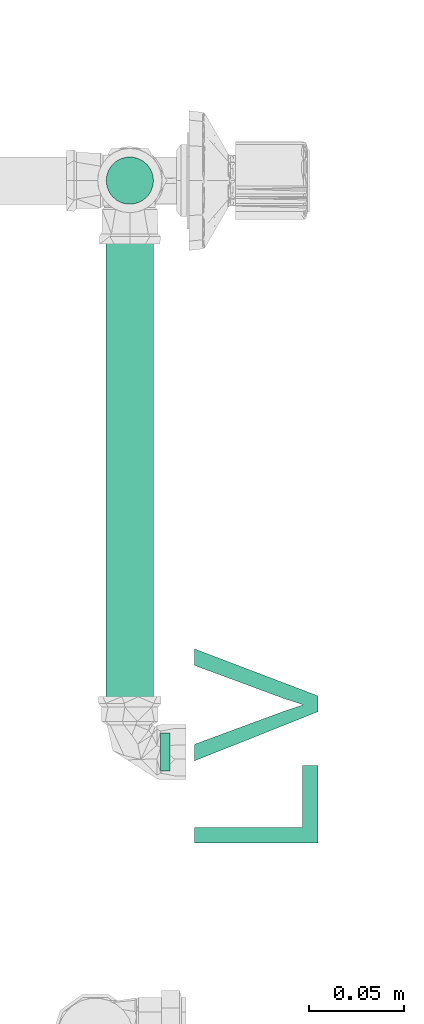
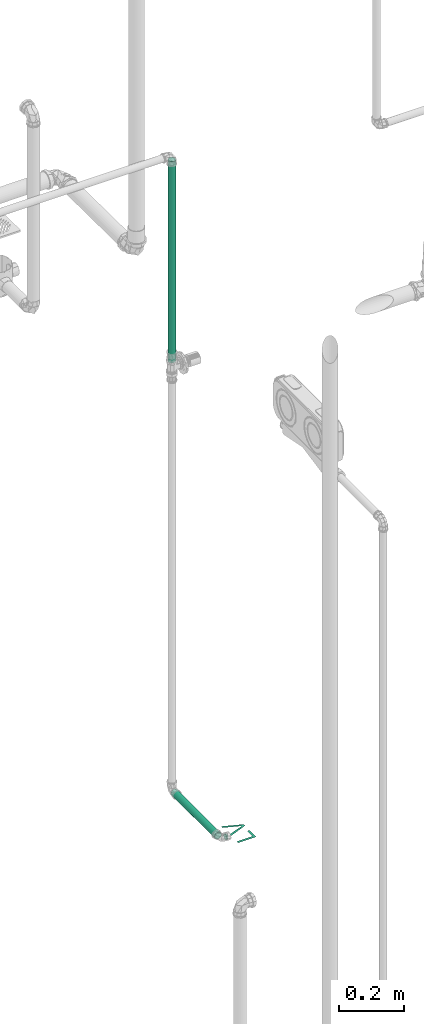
# One storey, part 189 of 589: 2 flow segments, 1 flow terminal.
"""IFC2X3 building model written with IfcOpenShell, lengths in millimetres."""

from ifc_helpers import new_model, entity, si_unit, converted_unit, derived_unit, direction, frame, frame_2d, origin, origin_2d_with_axis, place, context, subcontext, project, spatial, circle, extrude, face_set, surface_model, source, transform, mapped, material, type_object, type_shapes, element, save


model = new_model("IFC2X3")

# Units and contexts
model_context = context("Model", 3, precision=0.01, world=origin(), true_north=direction((6.123031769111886e-17, 1.0)))
body_context = subcontext(model_context, "Body", "Model", "MODEL_VIEW")
ifc_project = project(units=[si_unit("LENGTHUNIT", "METRE", prefix="MILLI"), si_unit("AREAUNIT", "SQUARE_METRE"), si_unit("VOLUMEUNIT", "CUBIC_METRE"), converted_unit("PLANEANGLEUNIT", "DEGREE", entity("IfcRatioMeasure", 0.017453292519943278), si_unit("PLANEANGLEUNIT", "RADIAN"), dimensions=[0, 0, 0, 0, 0, 0, 0]), si_unit("MASSUNIT", "GRAM", prefix="KILO"), derived_unit("MASSDENSITYUNIT", [(si_unit("MASSUNIT", "GRAM", prefix="KILO"), 1), (si_unit("LENGTHUNIT", "METRE"), -3)]), derived_unit("IONCONCENTRATIONUNIT", [(si_unit("MASSUNIT", "GRAM", prefix="KILO"), 1), (si_unit("LENGTHUNIT", "METRE"), -3)]), derived_unit("MOMENTOFINERTIAUNIT", [(si_unit("LENGTHUNIT", "METRE"), 4)]), si_unit("TIMEUNIT", "SECOND"), si_unit("FREQUENCYUNIT", "HERTZ"), si_unit("THERMODYNAMICTEMPERATUREUNIT", "DEGREE_CELSIUS"), derived_unit("THERMALTRANSMITTANCEUNIT", [(si_unit("MASSUNIT", "GRAM", prefix="KILO"), 1), (si_unit("THERMODYNAMICTEMPERATUREUNIT", "KELVIN"), -1), (si_unit("TIMEUNIT", "SECOND"), -3)]), derived_unit("THERMALCONDUCTANCEUNIT", [(si_unit("MASSUNIT", "GRAM", prefix="KILO"), 1), (si_unit("THERMODYNAMICTEMPERATUREUNIT", "KELVIN"), -1), (si_unit("TIMEUNIT", "SECOND"), -3), (si_unit("LENGTHUNIT", "METRE"), 1)]), derived_unit("VOLUMETRICFLOWRATEUNIT", [(si_unit("LENGTHUNIT", "METRE"), 3), (si_unit("TIMEUNIT", "SECOND"), -1)]), derived_unit("MASSFLOWRATEUNIT", [(si_unit("MASSUNIT", "GRAM", prefix="KILO"), 1), (si_unit("TIMEUNIT", "SECOND"), -1)]), derived_unit("ROTATIONALFREQUENCYUNIT", [(si_unit("TIMEUNIT", "SECOND"), -1)]), si_unit("ELECTRICCURRENTUNIT", "AMPERE"), si_unit("ELECTRICVOLTAGEUNIT", "VOLT"), si_unit("POWERUNIT", "WATT"), si_unit("FORCEUNIT", "NEWTON", prefix="KILO"), si_unit("ILLUMINANCEUNIT", "LUX"), si_unit("LUMINOUSFLUXUNIT", "LUMEN"), si_unit("LUMINOUSINTENSITYUNIT", "CANDELA"), derived_unit("USERDEFINED", [(si_unit("MASSUNIT", "GRAM", prefix="KILO"), -1), (si_unit("LENGTHUNIT", "METRE"), -2), (si_unit("TIMEUNIT", "SECOND"), 3), (si_unit("LUMINOUSFLUXUNIT", "LUMEN"), 1)]), derived_unit("USERDEFINED", [(si_unit("MASSUNIT", "GRAM", prefix="KILO"), 1), (si_unit("TIMEUNIT", "SECOND"), -3), (si_unit("LENGTHUNIT", "METRE"), 3), (si_unit("ELECTRICCURRENTUNIT", "AMPERE"), -2)]), derived_unit("SOUNDPOWERUNIT", [(si_unit("MASSUNIT", "GRAM", prefix="KILO"), 1), (si_unit("TIMEUNIT", "SECOND"), -3), (si_unit("LENGTHUNIT", "METRE"), 2)]), derived_unit("SOUNDPRESSUREUNIT", [(si_unit("MASSUNIT", "GRAM", prefix="KILO"), 1), (si_unit("LENGTHUNIT", "METRE"), -1), (si_unit("TIMEUNIT", "SECOND"), -2)]), derived_unit("LINEARVELOCITYUNIT", [(si_unit("LENGTHUNIT", "METRE"), 1), (si_unit("TIMEUNIT", "SECOND"), -1)]), si_unit("PRESSUREUNIT", "PASCAL"), derived_unit("USERDEFINED", [(si_unit("MASSUNIT", "GRAM", prefix="KILO"), 1), (si_unit("LENGTHUNIT", "METRE"), -2), (si_unit("TIMEUNIT", "SECOND"), -2)]), derived_unit("LINEARFORCEUNIT", [(si_unit("MASSUNIT", "GRAM", prefix="KILO"), 1), (si_unit("TIMEUNIT", "SECOND"), -2)]), derived_unit("PLANARFORCEUNIT", [(si_unit("MASSUNIT", "GRAM", prefix="KILO"), 1), (si_unit("LENGTHUNIT", "METRE"), -1), (si_unit("TIMEUNIT", "SECOND"), -2)]), derived_unit("SPECIFICHEATCAPACITYUNIT", [(si_unit("THERMODYNAMICTEMPERATUREUNIT", "KELVIN"), -1), (si_unit("LENGTHUNIT", "METRE"), 2), (si_unit("TIMEUNIT", "SECOND"), -2)]), derived_unit("HEATINGVALUEUNIT", [(si_unit("LENGTHUNIT", "METRE"), 2), (si_unit("TIMEUNIT", "SECOND"), -2)]), derived_unit("VAPORPERMEABILITYUNIT", [(si_unit("LENGTHUNIT", "METRE"), -1), (si_unit("TIMEUNIT", "SECOND"), 1)]), derived_unit("DYNAMICVISCOSITYUNIT", [(si_unit("MASSUNIT", "GRAM", prefix="KILO"), 1), (si_unit("TIMEUNIT", "SECOND"), -1), (si_unit("LENGTHUNIT", "METRE"), -1)]), derived_unit("THERMALEXPANSIONCOEFFICIENTUNIT", [(si_unit("THERMODYNAMICTEMPERATUREUNIT", "KELVIN"), -1)]), derived_unit("MODULUSOFELASTICITYUNIT", [(si_unit("MASSUNIT", "GRAM", prefix="KILO"), 1), (si_unit("LENGTHUNIT", "METRE"), -1), (si_unit("TIMEUNIT", "SECOND"), -2)]), derived_unit("ISOTHERMALMOISTURECAPACITYUNIT", [(si_unit("LENGTHUNIT", "METRE"), 3), (si_unit("MASSUNIT", "GRAM", prefix="KILO"), -1)]), derived_unit("MOISTUREDIFFUSIVITYUNIT", [(si_unit("TIMEUNIT", "SECOND"), -1), (si_unit("LENGTHUNIT", "METRE"), 2)])], contexts=[model_context])

# Site, building, storey
site_placement = place(None, origin())
site = spatial("IfcSite", under=ifc_project, at=site_placement, Name="Default", CompositionType="ELEMENT")
building_placement = place(site_placement, origin())
building = spatial("IfcBuilding", under=site, at=building_placement, CompositionType="ELEMENT")
storey_placement = place(building_placement, frame((0.0, 0.0, 100.0)))
storey = spatial("IfcBuildingStorey", under=building, at=storey_placement, Name="TÉRREO", CompositionType="ELEMENT", Elevation=100.0)

# Flow segments
pipe_segment_type = type_object("IfcPipeSegmentType", Name="Tipos de tubos:PVC Marrom Soldável", PredefinedType="NOTDEFINED")
flow_segment_1_placement = place(storey_placement, origin())
element("IfcFlowSegment", 1, at=flow_segment_1_placement, inside=storey, type_object=pipe_segment_type, Name="Tipos de tubos:PVC Marrom Soldável", ObjectType="Tipos de tubos:PVC Marrom Soldável", context=body_context, shape_type="SweptSolid", body=[
    extrude(circle(Radius=12.5, at=frame_2d((0.0, -1.353583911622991e-13), x_axis=(1.0, 0.0))), frame((11878.221256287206, -5881.231283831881, 600.0), z_axis=(0.0, 1.0, 0.0), x_axis=(1.0, 0.0, 0.0)), (0.0, 0.0, 1.0), 270.4353148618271),
])
flow_segment_2_placement = place(storey_placement, origin())
element("IfcFlowSegment", 2, at=flow_segment_2_placement, inside=storey, type_object=pipe_segment_type, Name="Tipos de tubos:PVC Marrom Soldável", ObjectType="Tipos de tubos:PVC Marrom Soldável", context=body_context, shape_type="SweptSolid", body=[
    extrude(circle(Radius=12.5, at=origin_2d_with_axis()), frame((11878.221256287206, -5595.395968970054, 2220.0), z_axis=(0.0, 0.0, 1.0), x_axis=(-1.0, 0.0, 0.0)), (0.0, 0.0, 1.0), 759.6000000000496),
])

# Flow terminal
ifc_material = material(Name="<Unnamed>")
distribution_element_type = type_object("IfcDistributionElementType", Name="Hidráulica_Ponto de Utilização_Uso Provável_Rodrigo MEP:Lavatório LV (Peso 0,3) 60cm do Piso", material=ifc_material)
shared_shape = source(origin(), body_context, "Body", "SurfaceModel", [
    surface_model("IfcFaceBasedSurfaceModel", [(0.0, 0.0, 11.595272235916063), (40.81037599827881, 0.0, 11.595272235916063), (40.81037599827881, 8.162075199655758, 11.595272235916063), (8.162075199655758, 8.162075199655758, 11.595272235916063), (8.162075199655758, 65.2966015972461, 11.595272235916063), (0.0, 65.2966015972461, 11.595272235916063), (69.281989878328, 0.0, 11.595272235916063), (77.71507148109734, 0.0, 11.595272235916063), (102.59983590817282, 65.2966015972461, 11.595272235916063), (93.86386479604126, 65.2966015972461, 11.595272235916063), (76.4238056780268, 18.253078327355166, 11.595272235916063), (72.94854709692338, 7.651945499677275, 11.595272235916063), (69.42546385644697, 18.253078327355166, 11.595272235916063), (52.03322939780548, 65.2966015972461, 11.595272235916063), (43.29725828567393, 65.2966015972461, 11.595272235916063), (37.95219179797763, 78.06704158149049, 11.595272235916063), (38.292933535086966, 78.06704158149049, 14.18346268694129), (39.291937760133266, 78.06704158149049, 16.595272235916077), (40.88112398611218, 78.06704158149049, 18.666340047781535), (42.95219179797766, 78.06704158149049, 20.255526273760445), (45.36400134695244, 78.06704158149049, 21.254530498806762), (47.952191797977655, 78.06704158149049, 21.59527223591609), (50.54038224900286, 78.06704158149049, 21.254530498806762), (52.95219179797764, 78.06704158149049, 20.255526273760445), (55.023259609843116, 78.06704158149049, 18.666340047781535), (56.61244583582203, 78.06704158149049, 16.595272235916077), (57.61145006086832, 78.06704158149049, 14.18346268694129), (57.95219179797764, 78.06704158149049, 11.595272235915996), (57.6114500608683, 78.06704158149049, 9.007081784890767), (56.612445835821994, 78.06704158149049, 6.595272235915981), (55.02325960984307, 78.06704158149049, 4.524204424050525), (52.95219179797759, 78.06704158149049, 2.9350181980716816), (50.540382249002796, 78.06704158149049, 1.936013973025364), (47.95219179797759, 78.06704158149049, 1.5952722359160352), (45.36400134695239, 78.06704158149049, 1.936013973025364), (42.952191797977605, 78.06704158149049, 2.9350181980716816), (40.88112398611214, 78.06704158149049, 4.524204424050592), (39.29193776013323, 78.06704158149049, 6.595272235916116), (38.292933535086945, 78.06704158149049, 9.007081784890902), (37.95219179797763, 83.06704158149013, 11.595272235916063), (38.292933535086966, 83.06704158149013, 14.18346268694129), (39.291937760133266, 83.06704158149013, 16.595272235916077), (40.88112398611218, 83.06704158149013, 18.666340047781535), (42.95219179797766, 83.06704158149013, 20.255526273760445), (45.36400134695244, 83.06704158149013, 21.254530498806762), (47.952191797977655, 83.06704158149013, 21.59527223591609), (50.54038224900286, 83.06704158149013, 21.254530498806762), (52.95219179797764, 83.06704158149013, 20.255526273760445), (55.023259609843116, 83.06704158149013, 18.666340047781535), (56.61244583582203, 83.06704158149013, 16.595272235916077), (57.61145006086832, 83.06704158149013, 14.18346268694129), (57.95219179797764, 83.06704158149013, 11.595272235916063), (57.6114500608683, 83.06704158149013, 9.007081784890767), (56.612445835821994, 83.06704158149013, 6.595272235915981), (55.02325960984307, 83.06704158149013, 4.524204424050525), (52.95219179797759, 83.06704158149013, 2.9350181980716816), (50.540382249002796, 83.06704158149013, 1.936013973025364), (47.95219179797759, 83.06704158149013, 1.5952722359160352), (45.36400134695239, 83.06704158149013, 1.936013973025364), (42.952191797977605, 83.06704158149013, 2.9350181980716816), (40.88112398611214, 83.06704158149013, 4.524204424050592), (39.29193776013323, 83.06704158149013, 6.595272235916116), (38.292933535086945, 83.06704158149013, 9.007081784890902)], [face_set([[[0, 1, 2, 3, 4, 5]], [[6, 7, 8, 9, 10, 11, 12, 13, 14]]]), face_set([[[15, 16, 17, 18, 19, 20, 21, 22, 23, 24, 25, 26, 27, 28, 29, 30, 31, 32, 33, 34, 35, 36, 37, 38]], [[39, 40, 41, 42, 43, 44, 45, 46, 47, 48, 49, 50, 51, 52, 53, 54, 55, 56, 57, 58, 59, 60, 61, 62]], [[39, 62, 38, 15]], [[62, 61, 37, 38]], [[60, 59, 35, 36]], [[61, 60, 36, 37]], [[59, 58, 34, 35]], [[33, 34, 58, 57]], [[57, 56, 32, 33]], [[56, 55, 31, 32]], [[54, 53, 29, 30]], [[55, 54, 30, 31]], [[53, 52, 28, 29]], [[27, 28, 52, 51]], [[51, 50, 26, 27]], [[50, 49, 25, 26]], [[48, 47, 23, 24]], [[49, 48, 24, 25]], [[47, 46, 22, 23]], [[21, 22, 46, 45]], [[45, 44, 20, 21]], [[44, 43, 19, 20]], [[42, 41, 17, 18]], [[43, 42, 18, 19]], [[41, 40, 16, 17]], [[15, 16, 40, 39]]])]),
])
type_shapes(distribution_element_type, [shared_shape])
flow_terminal_placement = place(storey_placement, frame((11977.588297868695, -5945.483475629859, 588.4047277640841), z_axis=(0.0, 0.0, 1.0), x_axis=(0.0, 1.0, 0.0)))
element("IfcFlowTerminal", 3, at=flow_terminal_placement, inside=storey, type_object=distribution_element_type, material=ifc_material, Name="Hidráulica_Ponto de Utilização_Uso Provável_Rodrigo MEP:Lavatório LV (Peso 0,3) 60cm do Piso", ObjectType="Hidráulica_Ponto de Utilização_Uso Provável_Rodrigo MEP:Lavatório LV (Peso 0,3) 60cm do Piso", context=body_context, shape_type="MappedRepresentation", body=[
    mapped(shared_shape, transform((0.0, 0.0, 0.0), scale=1.0)),
])

save(model, "model.ifc")
